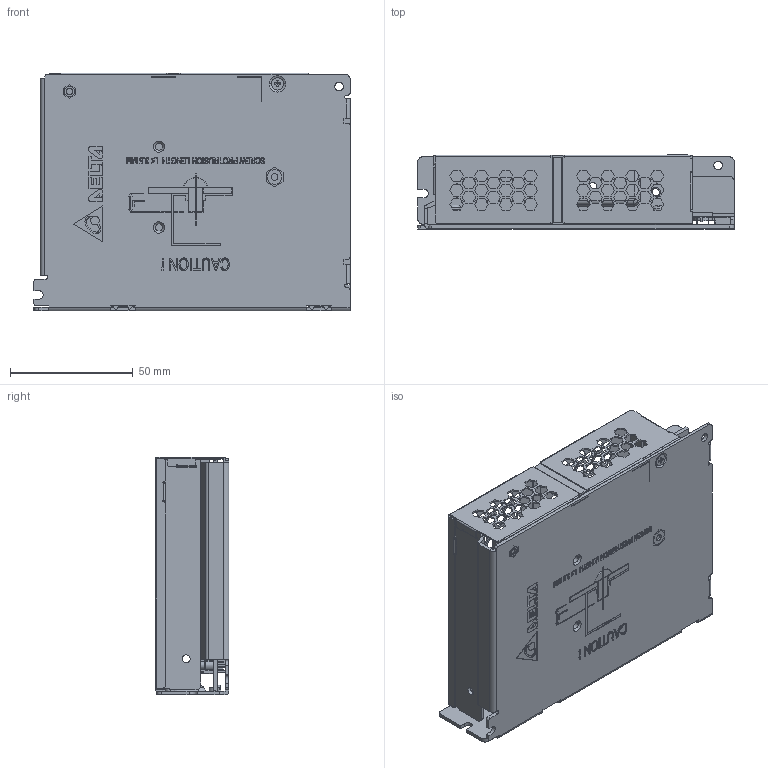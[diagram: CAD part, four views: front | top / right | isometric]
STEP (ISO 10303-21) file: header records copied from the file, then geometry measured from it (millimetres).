
FILE_DESCRIPTION((''),'2;1');
FILE_NAME('PMH-12V100WCLS_ASM','2018-03-09T',('Kidsada.Kohk'),(''),'PRO/ENGINEER BY PARAMETRIC TECHNOLOGY CORPORATION, 2010180','PRO/ENGINEER BY PARAMETRIC TECHNOLOGY CORPORATION, 2010180','');
FILE_SCHEMA(('CONFIG_CONTROL_DESIGN','SHAPE_APPEARANCE_LAYERS_GROUPS'));
Products named in the file (18): 330336890000_A_BODY; 330336890000_A_STUD6-32; 330336890000_A_STUDM3; 330336890000_ASM; 330336860000; PWB_MAINBOARD; 307049757W_A_BODY; 307049757W_A_SCREW; 307049757W_ASM; EE_VR131; EE_LED370; 312330170000_LED-HOLDER; ASSY_PWB-MAINBOARD_ASM; 3103300600_6-32; 3105469000; 3100300700; 3263670900; PMH-12V100WCLS_ASM
Assembly tree (23 placements, depth 4):
  PMH-12V100WCLS_ASM
    330336890000_ASM
      330336890000_A_BODY
      330336890000_A_STUD6-32
      330336890000_A_STUDM3
    330336860000
    ASSY_PWB-MAINBOARD_ASM
      PWB_MAINBOARD
      307049757W_ASM
        307049757W_A_BODY
        307049757W_A_SCREW  x7
      EE_VR131
      EE_LED370
      312330170000_LED-HOLDER
    3103300600_6-32
    3105469000
    3100300700
    3263670900
Bounding box: 129 x 30.1 x 97 mm (x, y, z)
Volume: 61229.1 mm3; surface area: 97383.4 mm2
Topology: 20 solids, 20 shells, 5463 faces, 14922 edges, 9398 vertices
Faces by surface type: plane 4168, cylinder 498, extrusion 376, bspline 300, cone 83, torus 36, sphere 2
Entity records: 199570 total; most frequent: CARTESIAN_POINT 35276, ORIENTED_EDGE 26588, DIRECTION 22383, PRESENTATION_STYLE_ASSIGNMENT 13334, EDGE_CURVE 13294, STYLED_ITEM 13095, CURVE_STYLE 13082, VECTOR 11859
